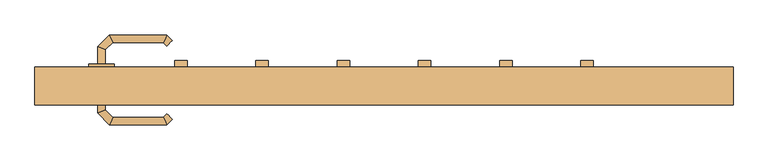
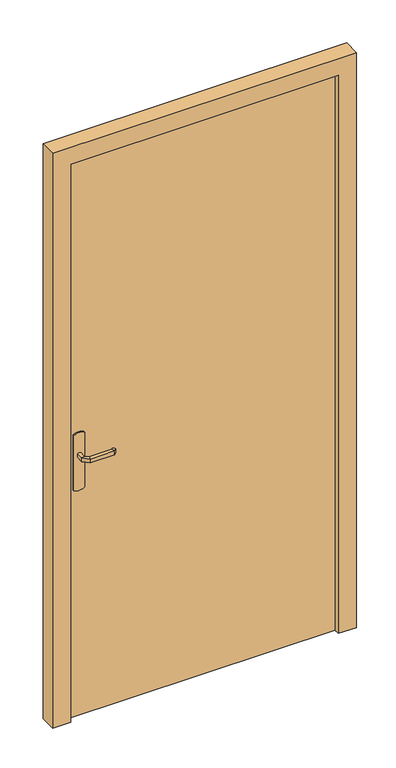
"""IFC4 building model written with IfcOpenShell, lengths in millimetres: door geometry, PVC Panneau Vitré - Traverse et barreaux : 1 m x 2.15m."""

from ifc_helpers import new_model, si_unit, point, frame, frame_2d, origin, origin_with_axes, place, context, project, spatial, polyline, circle_curve, ellipse_curve, trimmed, segment, composite_curve, outline, extrude, faceted_brep, source, transform, mapped, element, save
from ifc_brep_helpers import plane_surface, cylinder_surface, advanced_brep


def door_6cb85fd8(model_context):
    return source(origin(), model_context, "Body", "SolidModel", [
        extrude(outline(polyline([(140.0, 2090.0), (140.0, 65.0), (125.0, 65.0), (110.0, 80.0), (110.0, 2075.0), (125.0, 2090.0), (140.0, 2090.0)])), frame((-202.0, 0.0, 0.0), z_axis=(1.0, 0.0, 0.0), x_axis=(0.0, 1.0, 0.0)), (0.0, 0.0, 1.0), 20.0),
        extrude(outline(polyline([(140.0, 2090.0), (140.0, 65.0), (125.0, 65.0), (110.0, 80.0), (110.0, 2075.0), (125.0, 2090.0), (140.0, 2090.0)])), frame((-74.0, 0.0, 0.0), z_axis=(1.0, 0.0, 0.0), x_axis=(0.0, 1.0, 0.0)), (0.0, 0.0, 1.0), 20.0),
        advanced_brep(
        [(-439.0, 85.0, 993.0), (-451.0, 85.0, 993.0), (-451.0, 85.0, 1007.0), (-439.0, 85.0, 1007.0), (-439.0, 62.5147955, 1007.0), (-439.0, 62.5147955, 993.0), (-451.0, 57.5442327, 1007.0), (-451.0, 57.5442327, 993.0), (-427.5147186, 51.0295141, 1007.0), (-427.5147186, 51.0295141, 993.0), (-432.4852814, 39.0295141, 1007.0), (-432.4852814, 39.0295141, 993.0), (-347.4394977, 51.0295141, 1007.0), (-347.4394977, 51.0295141, 993.0), (-342.468935, 39.0295141, 1007.0), (-342.468935, 39.0295141, 993.0), (-342.1257892, 56.3432226, 993.0), (-342.1257892, 56.3432226, 1007.0), (-333.6405078, 47.8579412, 1007.0), (-333.6405078, 47.8579412, 993.0)],
        [
            (0, 1, circle_curve(frame((-445.0, 85.0, 1013.0457722), z_axis=(0.0, 1.0, 0.0), x_axis=(-1.0, 0.0, 0.0)), 20.9244589)),
            (1, 2),
            (2, 3, circle_curve(frame((-445.0, 85.0, 986.9542278), z_axis=(0.0, 1.0, 0.0), x_axis=(-1.0, 0.0, 0.0)), 20.9244589)),
            (3, 0),
            (3, 4),
            (4, 5),
            (5, 0),
            (2, 6),
            (6, 4, ellipse_curve(frame((-445.0, 60.0295141, 986.9542278), z_axis=(-0.38268343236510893, 0.9238795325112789, 0.0), x_axis=(0.9238795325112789, 0.3826834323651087, 0.0)), 22.6484711, 20.9244589)),
            (1, 7),
            (7, 6),
            (5, 7, ellipse_curve(frame((-445.0, 60.0295141, 1013.0457722), z_axis=(-0.38268343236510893, 0.9238795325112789, 0.0), x_axis=(0.9238795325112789, 0.3826834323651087, 0.0)), 22.6484711, 20.9244589)),
            (4, 8),
            (8, 9),
            (9, 5),
            (6, 10),
            (10, 8, ellipse_curve(frame((-430.0, 45.0295141, 986.9542278), z_axis=(-0.9238795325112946, 0.38268343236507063, 0.0), x_axis=(0.3826834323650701, 0.9238795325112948, 0.0)), 22.6484711, 20.9244589)),
            (7, 11),
            (11, 10),
            (9, 11, ellipse_curve(frame((-430.0, 45.0295141, 1013.0457722), z_axis=(-0.9238795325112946, 0.38268343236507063, 0.0), x_axis=(0.3826834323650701, 0.9238795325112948, 0.0)), 22.6484711, 20.9244589)),
            (8, 12),
            (12, 13),
            (13, 9),
            (10, 14),
            (14, 12, ellipse_curve(frame((-344.9542163, 45.0295141, 986.9542278), z_axis=(-0.9238795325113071, -0.38268343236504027, 0.0), x_axis=(-0.38268343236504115, 0.9238795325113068, 0.0)), 22.6484711, 20.9244589)),
            (11, 15),
            (15, 14),
            (13, 15, ellipse_curve(frame((-344.9542163, 45.0295141, 1013.0457722), z_axis=(-0.9238795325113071, -0.38268343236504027, 0.0), x_axis=(-0.38268343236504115, 0.9238795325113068, 0.0)), 22.6484711, 20.9244589)),
            (16, 17),
            (17, 18, circle_curve(frame((-337.8831485, 52.1005819, 986.9542278), z_axis=(0.7071067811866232, 0.7071067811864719, 0.0), x_axis=(0.7071067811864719, -0.7071067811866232, 0.0)), 20.9244589)),
            (18, 19),
            (19, 16, circle_curve(frame((-337.8831485, 52.1005819, 1013.0457722), z_axis=(0.7071067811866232, 0.7071067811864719, 0.0), x_axis=(0.7071067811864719, -0.7071067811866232, 0.0)), 20.9244589)),
            (12, 17),
            (16, 13),
            (14, 18),
            (15, 19),
        ],
        [
            plane_surface(frame((-454.2195445, 85.0, 1000.0), z_axis=(0.0, 1.0, 0.0), x_axis=(0.0, 0.0, 1.0))),
            plane_surface(frame((-439.0, 85.0, 993.0), z_axis=(1.0, 0.0, 0.0), x_axis=(0.0, -1.0, 0.0))),
            cylinder_surface(frame((-445.0, 85.0, 986.9542278), z_axis=(0.0, 1.0, 0.0), x_axis=(-1.0, 0.0, 0.0)), 20.9244589),
            plane_surface(frame((-451.0, 85.0, 1007.0), z_axis=(-1.0, 0.0, 0.0), x_axis=(0.0, -1.0, 0.0))),
            cylinder_surface(frame((-445.0, 85.0, 1013.0457722), z_axis=(0.0, 1.0, 0.0), x_axis=(-1.0, 0.0, 0.0)), 20.9244589),
            plane_surface(frame((-439.0, 62.5147955, 993.0), z_axis=(0.7071067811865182, 0.707106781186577, 0.0), x_axis=(0.707106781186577, -0.7071067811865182, 0.0))),
            cylinder_surface(frame((-445.0, 60.0295141, 986.9542278), z_axis=(-0.7071067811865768, 0.7071067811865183, 0.0), x_axis=(-0.7071067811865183, -0.7071067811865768, 0.0)), 20.9244589),
            plane_surface(frame((-451.0, 57.5442327, 1007.0), z_axis=(-0.7071067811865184, -0.7071067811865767, 0.0), x_axis=(0.7071067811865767, -0.7071067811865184, 0.0))),
            cylinder_surface(frame((-445.0, 60.0295141, 1013.0457722), z_axis=(-0.7071067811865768, 0.7071067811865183, 0.0), x_axis=(-0.7071067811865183, -0.7071067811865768, 0.0)), 20.9244589),
            plane_surface(frame((-427.5147186, 51.0295141, 993.0), z_axis=(0.0, 1.0, 0.0), x_axis=(1.0, 0.0, 0.0))),
            cylinder_surface(frame((-430.0, 45.0295141, 986.9542278), z_axis=(-1.0, 0.0, 0.0), x_axis=(0.0, -1.0, 0.0)), 20.9244589),
            plane_surface(frame((-432.4852814, 39.0295141, 1007.0), z_axis=(0.0, -1.0, 0.0), x_axis=(1.0, 0.0, 0.0))),
            cylinder_surface(frame((-430.0, 45.0295141, 1013.0457722), z_axis=(-1.0, 0.0, 0.0), x_axis=(0.0, -1.0, 0.0)), 20.9244589),
            plane_surface(frame((-337.8831485, 52.1005819, 990.7804555), z_axis=(0.7071067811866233, 0.7071067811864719, 0.0), x_axis=(0.7071067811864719, -0.7071067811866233, 0.0))),
            plane_surface(frame((-347.4394977, 51.0295141, 993.0), z_axis=(-0.7071067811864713, 0.7071067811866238, 0.0), x_axis=(0.7071067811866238, 0.7071067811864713, 0.0))),
            cylinder_surface(frame((-344.9542163, 45.0295141, 986.9542278), z_axis=(-0.7071067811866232, -0.7071067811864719, 0.0), x_axis=(0.7071067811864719, -0.7071067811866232, 0.0)), 20.9244589),
            plane_surface(frame((-342.468935, 39.0295141, 1007.0), z_axis=(0.7071067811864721, -0.707106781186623, 0.0), x_axis=(0.707106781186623, 0.7071067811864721, 0.0))),
            cylinder_surface(frame((-344.9542163, 45.0295141, 1013.0457722), z_axis=(-0.7071067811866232, -0.7071067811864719, 0.0), x_axis=(0.7071067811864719, -0.7071067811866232, 0.0)), 20.9244589),
        ],
        [
            (0, [[1, 2, 3, 4]]),
            (1, [[5, 6, 7, -4]]),
            (2, [[8, 9, -5, -3]]),
            (3, [[10, 11, -8, -2]]),
            (4, [[-7, 12, -10, -1]]),
            (5, [[13, 14, 15, -6]]),
            (6, [[16, 17, -13, -9]]),
            (7, [[18, 19, -16, -11]]),
            (8, [[-15, 20, -18, -12]]),
            (9, [[21, 22, 23, -14]]),
            (10, [[24, 25, -21, -17]]),
            (11, [[26, 27, -24, -19]]),
            (12, [[-23, 28, -26, -20]]),
            (13, [[29, 30, 31, 32]]),
            (14, [[33, -29, 34, -22]]),
            (15, [[35, -30, -33, -25]]),
            (16, [[36, -31, -35, -27]]),
            (17, [[-34, -32, -36, -28]]),
        ],
    ),
        advanced_brep(
        [(-451.0, 135.0, 1007.0), (-451.0, 135.0, 993.0), (-439.0, 135.0, 993.0), (-439.0, 135.0, 1007.0), (-439.0, 157.680388, 1007.0), (-451.0, 162.6509507, 1007.0), (-439.0, 157.680388, 993.0), (-451.0, 162.6509507, 993.0), (-427.6522273, 169.0281607, 1007.0), (-432.62279, 181.0281607, 1007.0), (-427.6522273, 169.0281607, 993.0), (-432.62279, 181.0281607, 993.0), (-347.4666408, 169.0281607, 1007.0), (-342.496078, 181.0281607, 1007.0), (-347.4666408, 169.0281607, 993.0), (-342.496078, 181.0281607, 993.0), (-333.6676509, 172.1997336, 1007.0), (-342.1529323, 163.7144522, 1007.0), (-342.1529323, 163.7144522, 993.0), (-333.6676509, 172.1997336, 993.0)],
        [
            (0, 1),
            (1, 2, circle_curve(frame((-445.0, 135.0, 1013.0457722), z_axis=(0.0, -1.0, 0.0), x_axis=(1.0, 0.0, 0.0)), 20.9244589)),
            (2, 3),
            (3, 0, circle_curve(frame((-445.0, 135.0, 986.9542278), z_axis=(0.0, -1.0, 0.0), x_axis=(1.0, 0.0, 0.0)), 20.9244589)),
            (3, 4),
            (4, 5, ellipse_curve(frame((-445.0, 160.1656693, 986.9542278), z_axis=(-0.3826834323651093, -0.9238795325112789, 0.0), x_axis=(0.9238795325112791, -0.38268343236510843, 0.0)), 22.6484711, 20.9244589)),
            (5, 0),
            (2, 6),
            (6, 4),
            (1, 7),
            (7, 6, ellipse_curve(frame((-445.0, 160.1656693, 1013.0457722), z_axis=(-0.3826834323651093, -0.9238795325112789, 0.0), x_axis=(0.9238795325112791, -0.38268343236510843, 0.0)), 22.6484711, 20.9244589)),
            (5, 7),
            (4, 8),
            (8, 9, ellipse_curve(frame((-430.1375086, 175.0281607, 986.9542278), z_axis=(-0.9238795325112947, -0.38268343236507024, 0.0), x_axis=(0.3826834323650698, -0.9238795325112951, 0.0)), 22.6484711, 20.9244589)),
            (9, 5),
            (6, 10),
            (10, 8),
            (7, 11),
            (11, 10, ellipse_curve(frame((-430.1375086, 175.0281607, 1013.0457722), z_axis=(-0.9238795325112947, -0.38268343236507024, 0.0), x_axis=(0.3826834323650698, -0.9238795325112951, 0.0)), 22.6484711, 20.9244589)),
            (9, 11),
            (8, 12),
            (12, 13, ellipse_curve(frame((-344.9813594, 175.0281607, 986.9542278), z_axis=(-0.9238795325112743, 0.3826834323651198, 0.0), x_axis=(-0.38268343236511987, -0.9238795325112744, 0.0)), 22.6484711, 20.9244589)),
            (13, 9),
            (10, 14),
            (14, 12),
            (11, 15),
            (15, 14, ellipse_curve(frame((-344.9813594, 175.0281607, 1013.0457722), z_axis=(-0.9238795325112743, 0.3826834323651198, 0.0), x_axis=(-0.38268343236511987, -0.9238795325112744, 0.0)), 22.6484711, 20.9244589)),
            (13, 15),
            (16, 17, circle_curve(frame((-337.9102916, 167.9570929, 986.9542278), z_axis=(0.7071067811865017, -0.7071067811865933, 0.0), x_axis=(-0.7071067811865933, -0.7071067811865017, 0.0)), 20.9244589)),
            (17, 18),
            (18, 19, circle_curve(frame((-337.9102916, 167.9570929, 1013.0457722), z_axis=(0.7071067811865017, -0.7071067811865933, 0.0), x_axis=(-0.7071067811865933, -0.7071067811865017, 0.0)), 20.9244589)),
            (19, 16),
            (12, 17),
            (16, 13),
            (14, 18),
            (15, 19),
        ],
        [
            plane_surface(frame((-454.2195445, 135.0, 1000.0), z_axis=(0.0, -1.0, 0.0), x_axis=(0.0, 0.0, -1.0))),
            cylinder_surface(frame((-445.0, 135.0, 986.9542278), z_axis=(0.0, -1.0, 0.0), x_axis=(1.0, 0.0, 0.0)), 20.9244589),
            plane_surface(frame((-439.0, 135.0, 1007.0), z_axis=(1.0, 0.0, 0.0), x_axis=(0.0, 1.0, 0.0))),
            cylinder_surface(frame((-445.0, 135.0, 1013.0457722), z_axis=(0.0, -1.0, 0.0), x_axis=(1.0, 0.0, 0.0)), 20.9244589),
            plane_surface(frame((-451.0, 135.0, 993.0), z_axis=(-1.0, 0.0, 0.0), x_axis=(0.0, 1.0, 0.0))),
            cylinder_surface(frame((-445.0, 160.1656693, 986.9542278), z_axis=(-0.7071067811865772, -0.7071067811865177, 0.0), x_axis=(0.7071067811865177, -0.7071067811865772, 0.0)), 20.9244589),
            plane_surface(frame((-439.0, 157.680388, 1007.0), z_axis=(0.707106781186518, -0.7071067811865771, 0.0), x_axis=(0.7071067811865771, 0.707106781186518, 0.0))),
            cylinder_surface(frame((-445.0, 160.1656693, 1013.0457722), z_axis=(-0.7071067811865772, -0.7071067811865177, 0.0), x_axis=(0.7071067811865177, -0.7071067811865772, 0.0)), 20.9244589),
            plane_surface(frame((-451.0, 162.6509507, 993.0), z_axis=(-0.7071067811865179, 0.7071067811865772, 0.0), x_axis=(0.7071067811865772, 0.7071067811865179, 0.0))),
            cylinder_surface(frame((-430.1375086, 175.0281607, 986.9542278), z_axis=(-1.0, 0.0, 0.0), x_axis=(0.0, -1.0, 0.0)), 20.9244589),
            plane_surface(frame((-427.6522273, 169.0281607, 1007.0), z_axis=(0.0, -1.0, 0.0), x_axis=(1.0, 0.0, 0.0))),
            cylinder_surface(frame((-430.1375086, 175.0281607, 1013.0457722), z_axis=(-1.0, 0.0, 0.0), x_axis=(0.0, -1.0, 0.0)), 20.9244589),
            plane_surface(frame((-432.62279, 181.0281607, 993.0), z_axis=(0.0, 1.0, 0.0), x_axis=(1.0, 0.0, 0.0))),
            plane_surface(frame((-337.9102916, 167.9570929, 1009.2195445), z_axis=(0.7071067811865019, -0.7071067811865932, 0.0), x_axis=(0.7071067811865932, 0.7071067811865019, 0.0))),
            cylinder_surface(frame((-344.9813594, 175.0281607, 986.9542278), z_axis=(-0.7071067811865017, 0.7071067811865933, 0.0), x_axis=(-0.7071067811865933, -0.7071067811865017, 0.0)), 20.9244589),
            plane_surface(frame((-347.4666408, 169.0281607, 1007.0), z_axis=(-0.7071067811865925, -0.7071067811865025, 0.0), x_axis=(0.7071067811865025, -0.7071067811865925, 0.0))),
            cylinder_surface(frame((-344.9813594, 175.0281607, 1013.0457722), z_axis=(-0.7071067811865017, 0.7071067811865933, 0.0), x_axis=(-0.7071067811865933, -0.7071067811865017, 0.0)), 20.9244589),
            plane_surface(frame((-342.496078, 181.0281607, 993.0), z_axis=(0.7071067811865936, 0.7071067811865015, 0.0), x_axis=(0.7071067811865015, -0.7071067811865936, 0.0))),
        ],
        [
            (0, [[1, 2, 3, 4]]),
            (1, [[5, 6, 7, -4]]),
            (2, [[8, 9, -5, -3]]),
            (3, [[10, 11, -8, -2]]),
            (4, [[-7, 12, -10, -1]]),
            (5, [[13, 14, 15, -6]]),
            (6, [[16, 17, -13, -9]]),
            (7, [[18, 19, -16, -11]]),
            (8, [[-15, 20, -18, -12]]),
            (9, [[21, 22, 23, -14]]),
            (10, [[24, 25, -21, -17]]),
            (11, [[26, 27, -24, -19]]),
            (12, [[-23, 28, -26, -20]]),
            (13, [[29, 30, 31, 32]]),
            (14, [[33, -29, 34, -22]]),
            (15, [[35, -30, -33, -25]]),
            (16, [[36, -31, -35, -27]]),
            (17, [[-34, -32, -36, -28]]),
        ],
    ),
        extrude(outline(composite_curve([segment(trimmed(circle_curve(frame_2d((1045.3589838, -445.0)), 40.0), [point((1080.0, -425.0))], [point((1080.0, -465.0))], False, "CARTESIAN"), True, "CONTINUOUS"), segment(polyline([(1080.0, -465.0), (870.0, -465.0)]), True, "CONTINUOUS"), segment(trimmed(circle_curve(frame_2d((904.6410162, -445.0)), 40.0), [point((870.0, -465.0))], [point((870.0, -425.0))], False, "CARTESIAN"), True, "CONTINUOUS"), segment(polyline([(870.0, -425.0), (1080.0, -425.0)]), True, "CONTINUOUS")], self_intersect=False)), frame((0.0, 85.0, 0.0), z_axis=(0.0, 1.0, 0.0), x_axis=(0.0, 0.0, 1.0)), (0.0, 0.0, 1.0), 5.0),
        extrude(outline(composite_curve([segment(trimmed(circle_curve(frame_2d((904.6410162, -445.0)), 40.0), [point((870.0, -465.0))], [point((870.0, -425.0))], False, "CARTESIAN"), True, "CONTINUOUS"), segment(polyline([(870.0, -425.0), (1080.0, -425.0)]), True, "CONTINUOUS"), segment(trimmed(circle_curve(frame_2d((1045.3589838, -445.0)), 40.0), [point((1080.0, -425.0))], [point((1080.0, -465.0))], False, "CARTESIAN"), True, "CONTINUOUS"), segment(polyline([(1080.0, -465.0), (870.0, -465.0)]), True, "CONTINUOUS")], self_intersect=False)), frame((0.0, 130.0, 0.0), z_axis=(0.0, 1.0, 0.0), x_axis=(0.0, 0.0, 1.0)), (0.0, 0.0, 1.0), 5.0),
        extrude(outline(polyline([(140.0, 2090.0), (140.0, 65.0), (125.0, 65.0), (110.0, 80.0), (110.0, 2075.0), (125.0, 2090.0), (140.0, 2090.0)])), frame((54.0, 0.0, 0.0), z_axis=(1.0, 0.0, 0.0), x_axis=(0.0, 1.0, 0.0)), (0.0, 0.0, 1.0), 20.0),
        extrude(outline(polyline([(140.0, 2090.0), (140.0, 65.0), (125.0, 65.0), (110.0, 80.0), (110.0, 2075.0), (125.0, 2090.0), (140.0, 2090.0)])), frame((182.0, 0.0, 0.0), z_axis=(1.0, 0.0, 0.0), x_axis=(0.0, 1.0, 0.0)), (0.0, 0.0, 1.0), 20.0),
        extrude(outline(polyline([(140.0, 2090.0), (140.0, 65.0), (125.0, 65.0), (110.0, 80.0), (110.0, 2075.0), (125.0, 2090.0), (140.0, 2090.0)])), frame((-330.0, 0.0, 0.0), z_axis=(1.0, 0.0, 0.0), x_axis=(0.0, 1.0, 0.0)), (0.0, 0.0, 1.0), 20.0),
        extrude(outline(polyline([(140.0, 2090.0), (140.0, 65.0), (125.0, 65.0), (110.0, 80.0), (110.0, 2075.0), (125.0, 2090.0), (140.0, 2090.0)])), frame((310.0, 0.0, 0.0), z_axis=(1.0, 0.0, 0.0), x_axis=(0.0, 1.0, 0.0)), (0.0, 0.0, 1.0), 20.0),
        faceted_brep([(-550.0, 130.0, 0.0), (-500.0, 130.0, 0.0), (-500.0, 90.0, 0.0), (-485.0, 90.0, 0.0), (-485.0, 70.0, 0.0), (-550.0, 70.0, 0.0), (-550.0, 70.0, 2200.0), (-550.0, 130.0, 2200.0), (-485.0, 70.0, 2135.0), (485.0, 70.0, 2135.0), (485.0, 70.0, 0.0), (550.0, 70.0, 0.0), (550.0, 70.0, 2200.0), (-485.0, 90.0, 2135.0), (-500.0, 90.0, 2150.0), (500.0, 90.0, 2150.0), (500.0, 90.0, 0.0), (485.0, 90.0, 0.0), (485.0, 90.0, 2135.0), (-500.0, 130.0, 2150.0), (550.0, 130.0, 2200.0), (550.0, 130.0, 0.0), (500.0, 130.0, 0.0), (500.0, 130.0, 2150.0)], [[[0, 1, 2, 3, 4, 5]], [[5, 6, 7, 0]], [[4, 8, 9, 10, 11, 12, 6, 5]], [[3, 13, 8, 4]], [[2, 14, 15, 16, 17, 18, 13, 3]], [[1, 19, 14, 2]], [[0, 7, 20, 21, 22, 23, 19, 1]], [[6, 12, 20, 7]], [[13, 18, 9, 8]], [[19, 23, 15, 14]], [[21, 11, 10, 17, 16, 22]], [[12, 11, 21, 20]], [[18, 17, 10, 9]], [[23, 22, 16, 15]]]),
        extrude(outline(polyline([(315.0, 115.0), (315.0, 105.0), (-315.0, 105.0), (-315.0, 115.0), (315.0, 115.0)])), frame((0.0, 0.0, 1000.0), z_axis=(0.0, 0.0, 1.0), x_axis=(1.0, 0.0, 0.0)), (0.0, 0.0, 1.0), 1010.0),
        extrude(outline(polyline([(315.0, 115.0), (315.0, 105.0), (-315.0, 105.0), (-315.0, 115.0), (315.0, 115.0)])), frame((0.0, 0.0, 100.0), z_axis=(0.0, 0.0, 1.0), x_axis=(1.0, 0.0, 0.0)), (0.0, 0.0, 1.0), 800.0),
        extrude(outline(polyline([(500.0, 130.0), (500.0, 90.0), (-500.0, 90.0), (-500.0, 130.0), (500.0, 130.0)])), origin_with_axes(), (0.0, 0.0, 1.0), 2150.0),
    ])


if __name__ == "__main__":
    model = new_model("IFC4")
    model_context = context("Model", 3, world=origin())
    ifc_project = project(units=[si_unit("LENGTHUNIT", "METRE", prefix="MILLI")], contexts=[model_context])
    site = spatial("IfcSite", under=ifc_project)
    building = spatial("IfcBuilding", under=site)
    placement = place(None, origin())
    door_shape = door_6cb85fd8(model_context)
    element("IfcDoor", 1, ObjectType="PVC Panneau Vitré - Traverse et barreaux : 1 m x 2.15m", at=placement, inside=building, context=model_context, shape_type="MappedRepresentation", body=[
        mapped(door_shape, transform((0.0, 0.0, 0.0), x_axis=(1.0, 0.0, 0.0), y_axis=(0.0, 1.0, 0.0), z_axis=(0.0, 0.0, 1.0))),
    ])
    save(model, "model.ifc")
